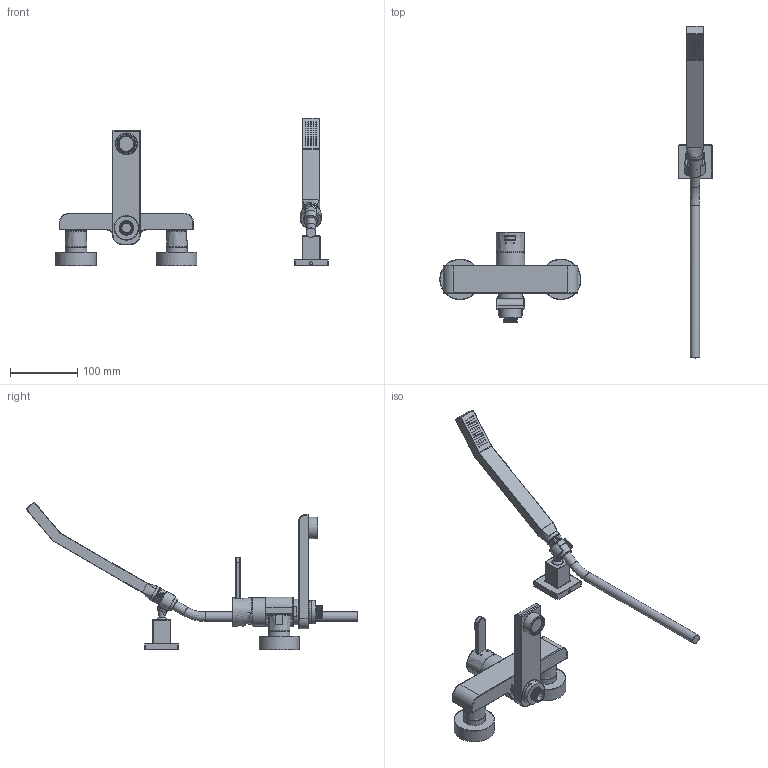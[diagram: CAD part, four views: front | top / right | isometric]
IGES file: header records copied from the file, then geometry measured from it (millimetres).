
Global section: file name: 5908223782077_igs; native system: Autodesk Inventor 2020; preprocessor: unknown; date: 20200727.130656; units: millimetre
Bounding box: 405.13 x 493.7 x 219.81 mm (x, y, z)
Volume: 797888.5 mm3; surface area: 175893.6 mm2
Topology: 26 solids, 26 shells, 534 faces, 1232 edges, 820 vertices
Faces by surface type: bspline 534
